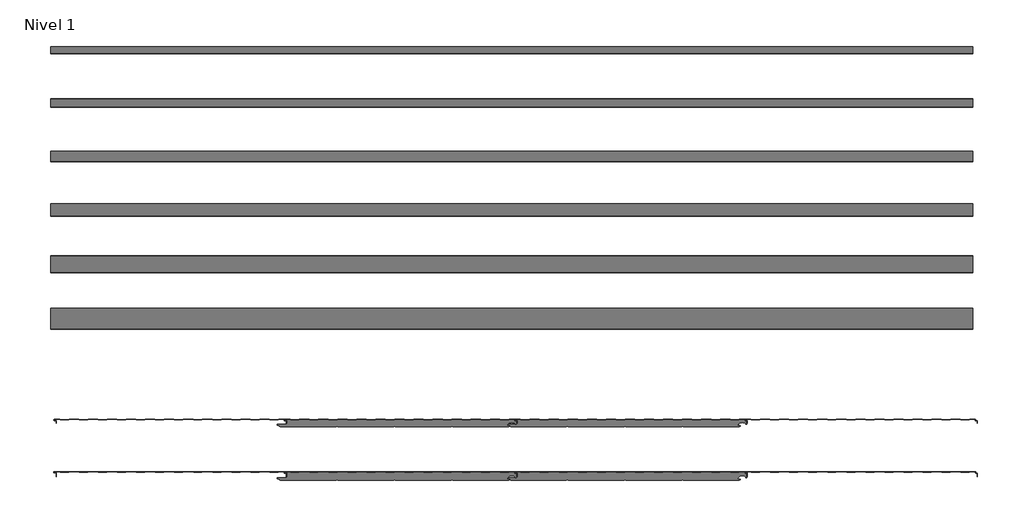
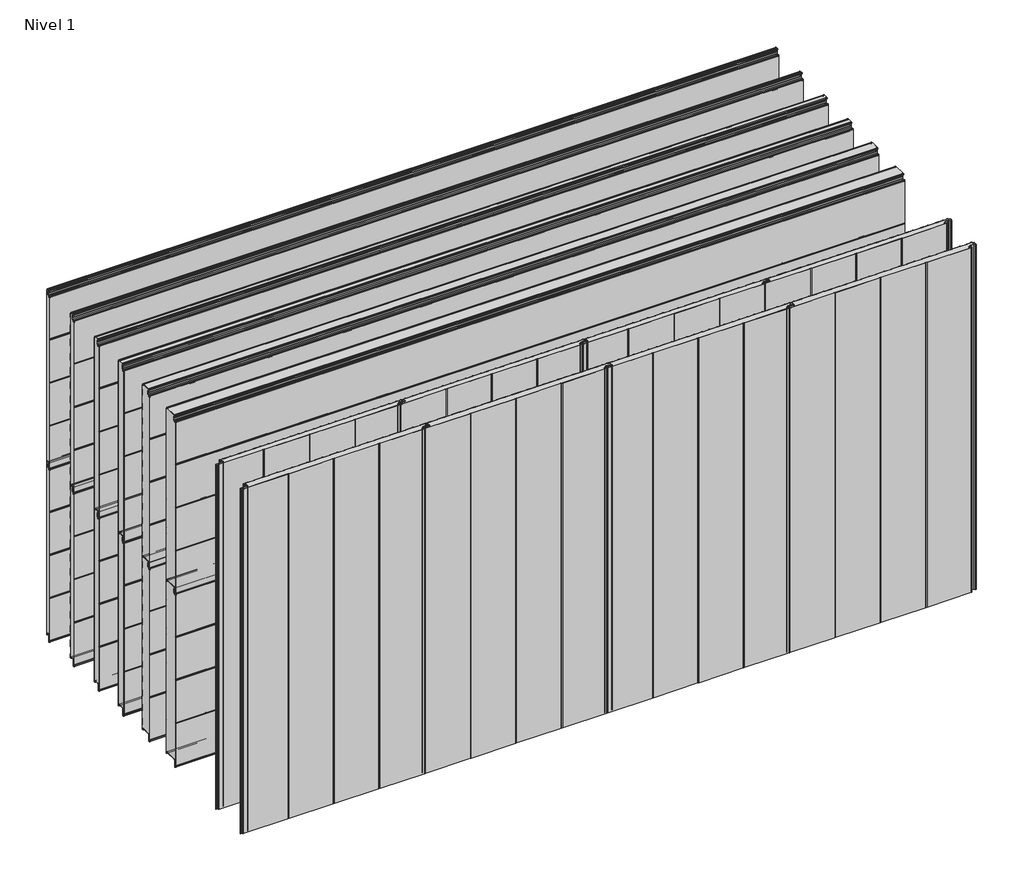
# One storey, incomplete: 20 plates.
"""IFC4 building model written with IfcOpenShell, lengths in millimetres."""

from ifc_helpers import new_model, si_unit, origin, place, context, project, spatial, transform, mapped, element, save
from components import plate_100_mm_49859a12, plate_35_mm_059ea82e, plate_35_mm_2ed9f2d6, plate_40_mm_44f672c6, plate_40_mm_a75b9acf, plate_50_mm_0d95fa54, plate_60_mm_8ddfc945, plate_80_mm_353dea63

model = new_model("IFC4")

# Units and contexts
model_context = context("Model", 3, world=origin())
ifc_project = project(units=[si_unit("LENGTHUNIT", "METRE", prefix="MILLI")], contexts=[model_context])

# Site, building, storey
site = spatial("IfcSite", under=ifc_project)
building = spatial("IfcBuilding", under=site)
storey = spatial("IfcBuildingStorey", under=building, Name="Nivel 1", Elevation=0.0)

# Plates
placement = place(None, origin())
plate_100_mm_shape = plate_100_mm_49859a12(model_context)
element("IfcPlate", 1, ObjectType="HIANSA PANEL - H20.F02.003-PANELES DE FACHADA HORIZONTAL - PANEL SEMILISO - Panel de Muro Cortina : 100 mm", at=placement, inside=storey, context=model_context, shape_type="MappedRepresentation", body=[
    mapped(plate_100_mm_shape, transform((6468.14367, 17686.5269271, 0.0), x_axis=(1.0, 0.0, 0.0), y_axis=(0.0, 1.0, 0.0), z_axis=(0.0, 0.0, 1.0))),
])
element("IfcPlate", 2, ObjectType="HIANSA PANEL - H20.F02.003-PANELES DE FACHADA HORIZONTAL - PANEL SEMILISO - Panel de Muro Cortina : 100 mm", at=placement, inside=storey, context=model_context, shape_type="MappedRepresentation", body=[
    mapped(plate_100_mm_shape, transform((6468.14367, 17686.5269271, 1100.0), x_axis=(1.0, 0.0, 0.0), y_axis=(0.0, 1.0, 0.0), z_axis=(0.0, 0.0, 1.0))),
])
plate_35_mm_shape = plate_35_mm_059ea82e(model_context)
element("IfcPlate", 3, ObjectType="HIANSA PANEL - H20.F02.003-PANELES DE FACHADA HORIZONTAL - PANEL SEMILISO - Panel de Muro Cortina : 35 mm", at=placement, inside=storey, context=model_context, shape_type="MappedRepresentation", body=[
    mapped(plate_35_mm_shape, transform((6468.14367, 18936.5269271, 0.0), x_axis=(1.0, 0.0, 0.0), y_axis=(0.0, 1.0, 0.0), z_axis=(0.0, 0.0, 1.0))),
])
element("IfcPlate", 4, ObjectType="HIANSA PANEL - H20.F02.003-PANELES DE FACHADA HORIZONTAL - PANEL SEMILISO - Panel de Muro Cortina : 35 mm", at=placement, inside=storey, context=model_context, shape_type="MappedRepresentation", body=[
    mapped(plate_35_mm_shape, transform((6468.14367, 18936.5269271, 1100.0), x_axis=(1.0, 0.0, 0.0), y_axis=(0.0, 1.0, 0.0), z_axis=(0.0, 0.0, 1.0))),
])
plate_35_mm_2_shape = plate_35_mm_2ed9f2d6(model_context)
element("IfcPlate", 5, ObjectType="HIANSA PANEL - H20.F02.003-PANELES DE FACHADA VERTICAL - PANEL SEMILISO - Panel de Muro Cortina : 35 mm", at=placement, inside=storey, context=model_context, shape_type="MappedRepresentation", body=[
    mapped(plate_35_mm_2_shape, transform((4818.1436702, 17156.5269271, 0.0), x_axis=(1.0, 0.0, 0.0), y_axis=(0.0, 1.0, 0.0), z_axis=(0.0, 0.0, 1.0))),
])
element("IfcPlate", 6, ObjectType="HIANSA PANEL - H20.F02.003-PANELES DE FACHADA VERTICAL - PANEL SEMILISO - Panel de Muro Cortina : 35 mm", at=placement, inside=storey, context=model_context, shape_type="MappedRepresentation", body=[
    mapped(plate_35_mm_2_shape, transform((5918.1436703, 17156.5269271, 0.0), x_axis=(1.0, 0.0, 0.0), y_axis=(0.0, 1.0, 0.0), z_axis=(0.0, 0.0, 1.0))),
])
element("IfcPlate", 7, ObjectType="HIANSA PANEL - H20.F02.003-PANELES DE FACHADA VERTICAL - PANEL SEMILISO - Panel de Muro Cortina : 35 mm", at=placement, inside=storey, context=model_context, shape_type="MappedRepresentation", body=[
    mapped(plate_35_mm_2_shape, transform((7018.1436703, 17156.5269271, 0.0), x_axis=(1.0, 0.0, 0.0), y_axis=(0.0, 1.0, 0.0), z_axis=(0.0, 0.0, 1.0))),
])
element("IfcPlate", 8, ObjectType="HIANSA PANEL - H20.F02.003-PANELES DE FACHADA VERTICAL - PANEL SEMILISO - Panel de Muro Cortina : 35 mm", at=placement, inside=storey, context=model_context, shape_type="MappedRepresentation", body=[
    mapped(plate_35_mm_2_shape, transform((8118.1436702, 17156.5269271, 0.0), x_axis=(1.0, 0.0, 0.0), y_axis=(0.0, 1.0, 0.0), z_axis=(0.0, 0.0, 1.0))),
])
plate_40_mm_shape = plate_40_mm_44f672c6(model_context)
element("IfcPlate", 9, ObjectType="HIANSA PANEL - H20.F02.003-PANELES DE FACHADA HORIZONTAL - PANEL SEMILISO - Panel de Muro Cortina : 40 mm", at=placement, inside=storey, context=model_context, shape_type="MappedRepresentation", body=[
    mapped(plate_40_mm_shape, transform((6468.14367, 18686.5269271, 0.0), x_axis=(1.0, 0.0, 0.0), y_axis=(0.0, 1.0, 0.0), z_axis=(0.0, 0.0, 1.0))),
])
element("IfcPlate", 10, ObjectType="HIANSA PANEL - H20.F02.003-PANELES DE FACHADA HORIZONTAL - PANEL SEMILISO - Panel de Muro Cortina : 40 mm", at=placement, inside=storey, context=model_context, shape_type="MappedRepresentation", body=[
    mapped(plate_40_mm_shape, transform((6468.14367, 18686.5269271, 1100.0), x_axis=(1.0, 0.0, 0.0), y_axis=(0.0, 1.0, 0.0), z_axis=(0.0, 0.0, 1.0))),
])
plate_40_mm_2_shape = plate_40_mm_a75b9acf(model_context)
element("IfcPlate", 11, ObjectType="HIANSA PANEL - H20.F02.003-PANELES DE FACHADA VERTICAL - PANEL SEMILISO - Panel de Muro Cortina : 40 mm", at=placement, inside=storey, context=model_context, shape_type="MappedRepresentation", body=[
    mapped(plate_40_mm_2_shape, transform((4818.1436702, 16906.5269271, 0.0), x_axis=(1.0, 0.0, 0.0), y_axis=(0.0, 1.0, 0.0), z_axis=(0.0, 0.0, 1.0))),
])
element("IfcPlate", 12, ObjectType="HIANSA PANEL - H20.F02.003-PANELES DE FACHADA VERTICAL - PANEL SEMILISO - Panel de Muro Cortina : 40 mm", at=placement, inside=storey, context=model_context, shape_type="MappedRepresentation", body=[
    mapped(plate_40_mm_2_shape, transform((5918.1436703, 16906.5269271, 0.0), x_axis=(1.0, 0.0, 0.0), y_axis=(0.0, 1.0, 0.0), z_axis=(0.0, 0.0, 1.0))),
])
element("IfcPlate", 13, ObjectType="HIANSA PANEL - H20.F02.003-PANELES DE FACHADA VERTICAL - PANEL SEMILISO - Panel de Muro Cortina : 40 mm", at=placement, inside=storey, context=model_context, shape_type="MappedRepresentation", body=[
    mapped(plate_40_mm_2_shape, transform((7018.1436703, 16906.5269271, 0.0), x_axis=(1.0, 0.0, 0.0), y_axis=(0.0, 1.0, 0.0), z_axis=(0.0, 0.0, 1.0))),
])
element("IfcPlate", 14, ObjectType="HIANSA PANEL - H20.F02.003-PANELES DE FACHADA VERTICAL - PANEL SEMILISO - Panel de Muro Cortina : 40 mm", at=placement, inside=storey, context=model_context, shape_type="MappedRepresentation", body=[
    mapped(plate_40_mm_2_shape, transform((8118.1436702, 16906.5269271, 0.0), x_axis=(1.0, 0.0, 0.0), y_axis=(0.0, 1.0, 0.0), z_axis=(0.0, 0.0, 1.0))),
])
plate_50_mm_shape = plate_50_mm_0d95fa54(model_context)
element("IfcPlate", 15, ObjectType="HIANSA PANEL - H20.F02.003-PANELES DE FACHADA HORIZONTAL - PANEL SEMILISO - Panel de Muro Cortina : 50 mm", at=placement, inside=storey, context=model_context, shape_type="MappedRepresentation", body=[
    mapped(plate_50_mm_shape, transform((6468.14367, 18436.5269271, 0.0), x_axis=(1.0, 0.0, 0.0), y_axis=(0.0, 1.0, 0.0), z_axis=(0.0, 0.0, 1.0))),
])
element("IfcPlate", 16, ObjectType="HIANSA PANEL - H20.F02.003-PANELES DE FACHADA HORIZONTAL - PANEL SEMILISO - Panel de Muro Cortina : 50 mm", at=placement, inside=storey, context=model_context, shape_type="MappedRepresentation", body=[
    mapped(plate_50_mm_shape, transform((6468.14367, 18436.5269271, 1100.0), x_axis=(1.0, 0.0, 0.0), y_axis=(0.0, 1.0, 0.0), z_axis=(0.0, 0.0, 1.0))),
])
plate_60_mm_shape = plate_60_mm_8ddfc945(model_context)
element("IfcPlate", 17, ObjectType="HIANSA PANEL - H20.F02.003-PANELES DE FACHADA HORIZONTAL - PANEL SEMILISO - Panel de Muro Cortina : 60 mm", at=placement, inside=storey, context=model_context, shape_type="MappedRepresentation", body=[
    mapped(plate_60_mm_shape, transform((6468.14367, 18186.5269271, 0.0), x_axis=(1.0, 0.0, 0.0), y_axis=(0.0, 1.0, 0.0), z_axis=(0.0, 0.0, 1.0))),
])
element("IfcPlate", 18, ObjectType="HIANSA PANEL - H20.F02.003-PANELES DE FACHADA HORIZONTAL - PANEL SEMILISO - Panel de Muro Cortina : 60 mm", at=placement, inside=storey, context=model_context, shape_type="MappedRepresentation", body=[
    mapped(plate_60_mm_shape, transform((6468.14367, 18186.5269271, 1100.0), x_axis=(1.0, 0.0, 0.0), y_axis=(0.0, 1.0, 0.0), z_axis=(0.0, 0.0, 1.0))),
])
plate_80_mm_shape = plate_80_mm_353dea63(model_context)
element("IfcPlate", 19, ObjectType="HIANSA PANEL - H20.F02.003-PANELES DE FACHADA HORIZONTAL - PANEL SEMILISO - Panel de Muro Cortina : 80 mm", at=placement, inside=storey, context=model_context, shape_type="MappedRepresentation", body=[
    mapped(plate_80_mm_shape, transform((6468.14367, 17936.5269271, 0.0), x_axis=(1.0, 0.0, 0.0), y_axis=(0.0, 1.0, 0.0), z_axis=(0.0, 0.0, 1.0))),
])
element("IfcPlate", 20, ObjectType="HIANSA PANEL - H20.F02.003-PANELES DE FACHADA HORIZONTAL - PANEL SEMILISO - Panel de Muro Cortina : 80 mm", at=placement, inside=storey, context=model_context, shape_type="MappedRepresentation", body=[
    mapped(plate_80_mm_shape, transform((6468.14367, 17936.5269271, 1100.0), x_axis=(1.0, 0.0, 0.0), y_axis=(0.0, 1.0, 0.0), z_axis=(0.0, 0.0, 1.0))),
])

save(model, "model.ifc")
